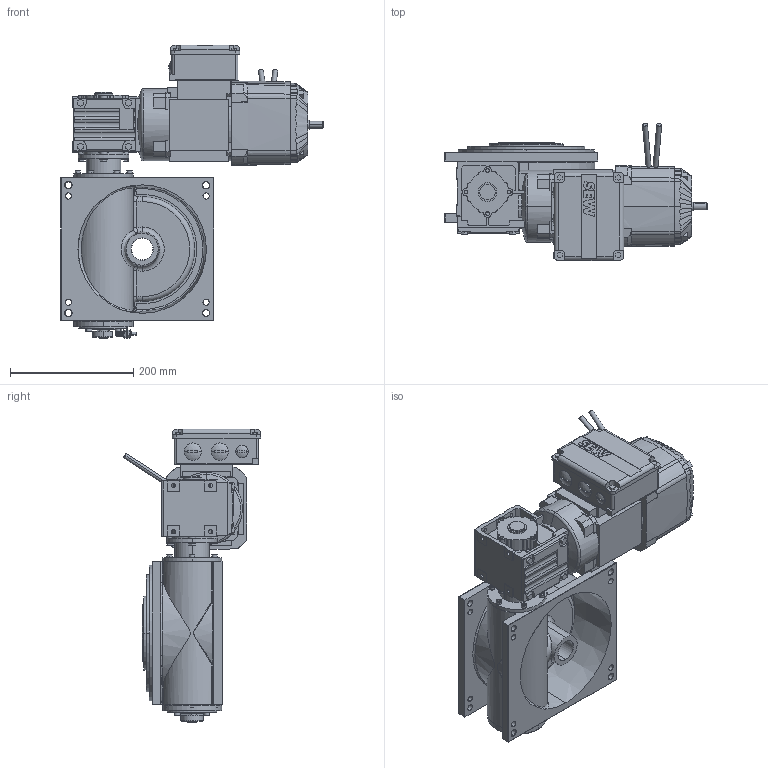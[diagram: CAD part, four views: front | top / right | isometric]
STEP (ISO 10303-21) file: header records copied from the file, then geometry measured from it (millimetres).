
FILE_DESCRIPTION (( 'STEP AP214' ), '1' );
FILE_NAME ('M190_SEW_WA20DRN71MS4BE05HR2W_D1.STEP', '2021-01-25T15:01:36', ( '' ), ( '' ), 'SwSTEP 2.0', 'SolidWorks 2020', '' );
FILE_SCHEMA (( 'AUTOMOTIVE_DESIGN' ));
Length unit declared in the file: millimetre
Products named in the file (1): M190_SEW_WA20DRN71MS4BE05HR2W_D1
Bounding box: 425.4 x 222.2 x 476.05 mm (x, y, z)
Surface area: 650949.2 mm2 (no closed solid volume)
Topology: 0 solids, 60 shells, 1517 faces, 4624 edges, 3064 vertices
Faces by surface type: plane 578, cylinder 541, cone 204, bspline 110, torus 68, sphere 16
Entity records: 81231 total; most frequent: CARTESIAN_POINT 24066, DIRECTION 8454, ORIENTED_EDGE 8049, EDGE_CURVE 4595, AXIS2_PLACEMENT_3D 3066, VERTEX_POINT 3064, LINE 2322, VECTOR 2322
